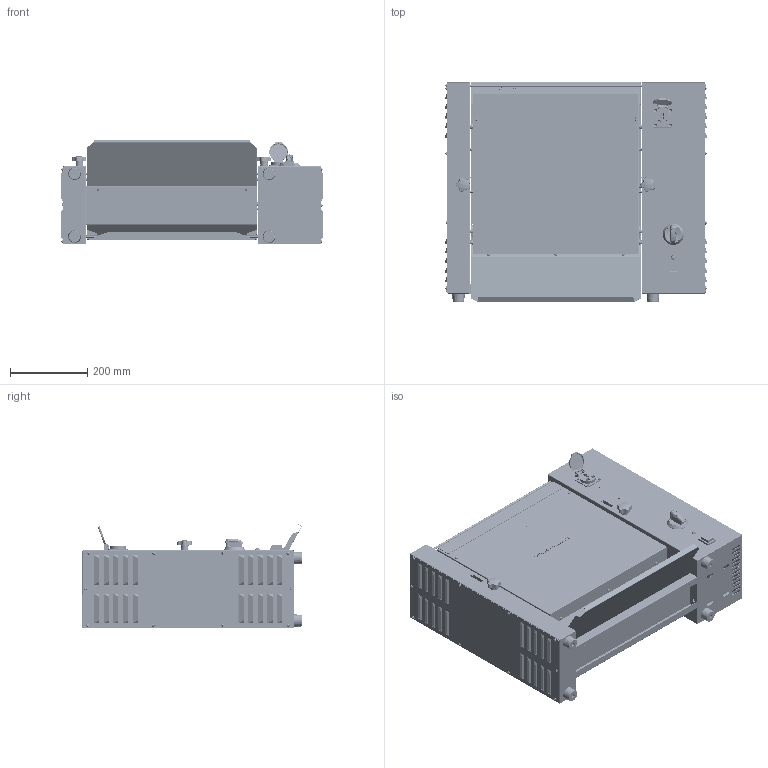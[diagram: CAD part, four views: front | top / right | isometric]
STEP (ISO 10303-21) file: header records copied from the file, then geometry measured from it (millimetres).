
FILE_DESCRIPTION (( 'STEP AP214' ), '1' );
FILE_NAME ('pres-CTV600B.STEP', '2025-01-16T15:46:45', ( '' ), ( '' ), 'SwSTEP 2.0', 'SolidWorks 2025', '' );
FILE_SCHEMA (( 'AUTOMOTIVE_DESIGN' ));
Length unit declared in the file: millimetre
Products named in the file (1): pres-CTV600B
Bounding box: 682.36 x 570.13 x 271.89 mm (x, y, z)
Volume: 3847954.8 mm3; surface area: 4153148.2 mm2
Topology: 179 solids, 185 shells, 6748 faces, 16276 edges, 10080 vertices
Faces by surface type: plane 3274, cylinder 1988, bspline 837, cone 372, torus 221, sphere 56
Entity records: 315139 total; most frequent: CARTESIAN_POINT 88475, ORIENTED_EDGE 32362, DIRECTION 30141, EDGE_CURVE 16181, AXIS2_PLACEMENT_3D 10558, VERTEX_POINT 10077, LINE 9025, VECTOR 9025
